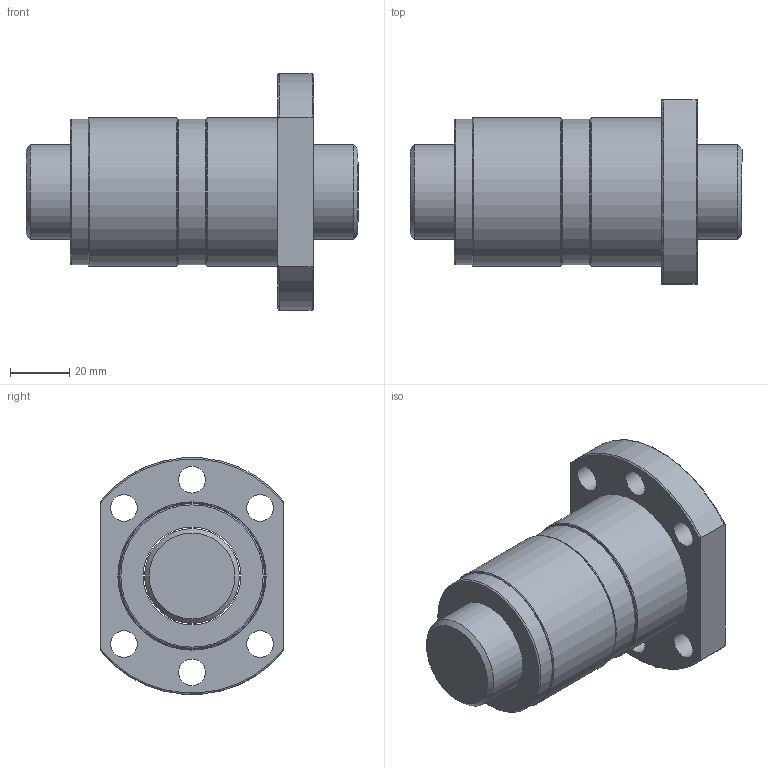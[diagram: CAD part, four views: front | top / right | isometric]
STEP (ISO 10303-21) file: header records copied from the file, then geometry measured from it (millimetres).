
FILE_DESCRIPTION(/* description */ (''),/* implementation_level */ '2;1');
FILE_NAME(/* name */ 'DFS3205',/* time_stamp */ '2007-10-26T13:39:51+08:00',/* author */ (''),/* organization */ (''),/* preprocessor_version */ 'ST-DEVELOPER v9',/* originating_system */ 'UGS - NX 3.0',/* authorisation */ '');
FILE_SCHEMA (('CONFIG_CONTROL_DESIGN'));
Length unit declared in the file: millimetre
Products named in the file (1): jaso15A4i32g
Bounding box: 112 x 62 x 79.74 mm (x, y, z)
Volume: 203675.7 mm3; surface area: 53429.3 mm2
Topology: 6 solids, 6 shells, 49 faces, 96 edges, 61 vertices
Faces by surface type: cylinder 20, plane 16, torus 11, cone 2
Full cylindrical faces by diameter (mm): 9 x6, 32 x1, 33 x5, 49 x3, 50 x3
Entity records: 1384 total; most frequent: CARTESIAN_POINT 324, DIRECTION 214, ORIENTED_EDGE 138, AXIS2_PLACEMENT_3D 103, EDGE_LOOP 100, FACE_BOUND 76, EDGE_CURVE 69, VERTEX_POINT 61
